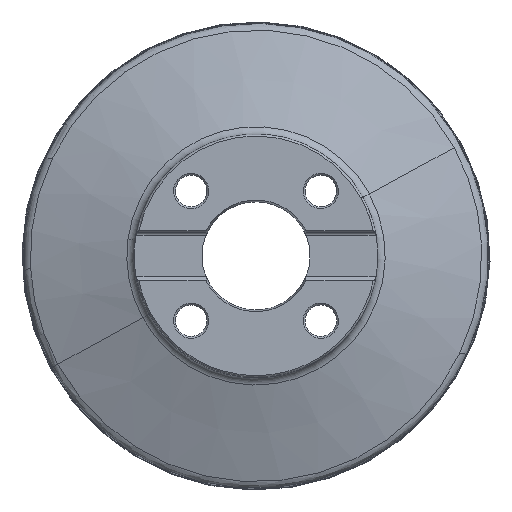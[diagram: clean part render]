
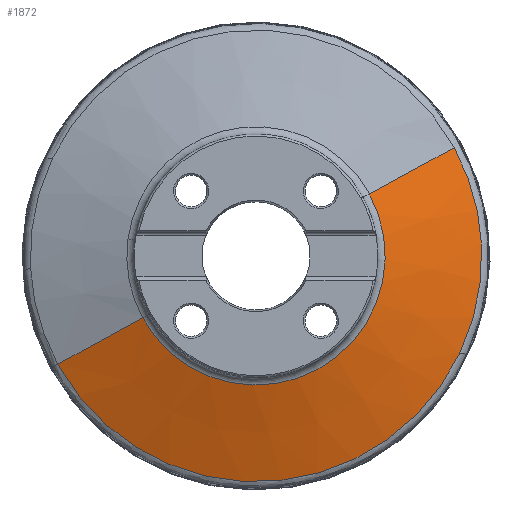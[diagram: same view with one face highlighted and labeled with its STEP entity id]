
A CAD part, top view. The second image highlights one B-rep face of the part: STEP entity #1872.
In plain terms, the highlighted conical face has half-angle 71.194 degrees and reference radius 67.5 mm.
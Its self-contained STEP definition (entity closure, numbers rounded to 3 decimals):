
#1523=AXIS2_PLACEMENT_3D('Circle Axis2P3D',#1521,#1522,$) ;
#1813=AXIS2_PLACEMENT_3D('Circle Axis2P3D',#1811,#1812,$) ;
#1820=AXIS2_PLACEMENT_3D('Circle Axis2P3D',#1818,#1819,$) ;
#1843=AXIS2_PLACEMENT_3D('Cone Axis2P3D',#1840,#1841,#1842) ;
#1854=AXIS2_PLACEMENT_3D('Circle Axis2P3D',#1852,#1853,$) ;
#1521=CARTESIAN_POINT('Axis2P3D Location',(0.,0.,-40.615)) ;
#1525=CARTESIAN_POINT('Vertex',(-109.787,-59.977,-40.615)) ;
#1527=CARTESIAN_POINT('Vertex',(112.804,-54.089,-40.615)) ;
#1808=CARTESIAN_POINT('Vertex',(109.787,59.977,-40.615)) ;
#1811=CARTESIAN_POINT('Axis2P3D Location',(0.,0.,-40.615)) ;
#1815=CARTESIAN_POINT('Vertex',(124.927,6.614,-40.615)) ;
#1818=CARTESIAN_POINT('Axis2P3D Location',(0.,0.,-40.615)) ;
#1840=CARTESIAN_POINT('Axis2P3D Location',(0.,0.,-21.)) ;
#1845=CARTESIAN_POINT('Line Origine',(415397.4,226932.634,-161188.071)) ;
#1849=CARTESIAN_POINT('Vertex',(62.805,34.31,-22.385)) ;
#1852=CARTESIAN_POINT('Axis2P3D Location',(0.,0.,-22.385)) ;
#1856=CARTESIAN_POINT('Vertex',(-62.805,-34.31,-22.385)) ;
#1859=CARTESIAN_POINT('Line Origine',(-415397.4,-226932.634,-161188.071)) ;
#1522=DIRECTION('Axis2P3D Direction',(0.,0.,1.)) ;
#1812=DIRECTION('Axis2P3D Direction',(0.,0.,1.)) ;
#1819=DIRECTION('Axis2P3D Direction',(0.,0.,1.)) ;
#1841=DIRECTION('Axis2P3D Direction',(-0.,-0.,-1.)) ;
#1842=DIRECTION('Axis2P3D XDirection',(0.878,0.479,0.)) ;
#1846=DIRECTION('Vector Direction',(0.831,0.454,-0.322)) ;
#1853=DIRECTION('Axis2P3D Direction',(-0.,0.,-1.)) ;
#1860=DIRECTION('Vector Direction',(-0.831,-0.454,-0.322)) ;
#1847=VECTOR('Line Direction',#1846,1.) ;
#1861=VECTOR('Line Direction',#1860,1.) ;
#1865=ORIENTED_EDGE('',*,*,#1851,.T.) ;
#1866=ORIENTED_EDGE('',*,*,#1858,.T.) ;
#1867=ORIENTED_EDGE('',*,*,#1863,.F.) ;
#1868=ORIENTED_EDGE('',*,*,#1529,.T.) ;
#1869=ORIENTED_EDGE('',*,*,#1822,.T.) ;
#1870=ORIENTED_EDGE('',*,*,#1817,.T.) ;
#1872=ADVANCED_FACE('NOCUT',(#1871),#1844,.T.) ;
#1524=CIRCLE('generated circle',#1523,125.102) ;
#1814=CIRCLE('generated circle',#1813,125.102) ;
#1821=CIRCLE('generated circle',#1820,125.102) ;
#1855=CIRCLE('generated circle',#1854,71.566) ;
#1844=CONICAL_SURFACE('Cone',#1843,67.5,1.243) ;
#1529=EDGE_CURVE('',#1526,#1528,#1524,.T.) ;
#1817=EDGE_CURVE('',#1816,#1809,#1814,.T.) ;
#1822=EDGE_CURVE('',#1528,#1816,#1821,.T.) ;
#1851=EDGE_CURVE('',#1809,#1850,#1848,.F.) ;
#1858=EDGE_CURVE('',#1850,#1857,#1855,.T.) ;
#1863=EDGE_CURVE('',#1526,#1857,#1862,.F.) ;
#1864=EDGE_LOOP('',(#1865,#1866,#1867,#1868,#1869,#1870)) ;
#1871=FACE_OUTER_BOUND('',#1864,.T.) ;
#1848=LINE('Line',#1845,#1847) ;
#1862=LINE('Line',#1859,#1861) ;
#1526=VERTEX_POINT('',#1525) ;
#1528=VERTEX_POINT('',#1527) ;
#1809=VERTEX_POINT('',#1808) ;
#1816=VERTEX_POINT('',#1815) ;
#1850=VERTEX_POINT('',#1849) ;
#1857=VERTEX_POINT('',#1856) ;
